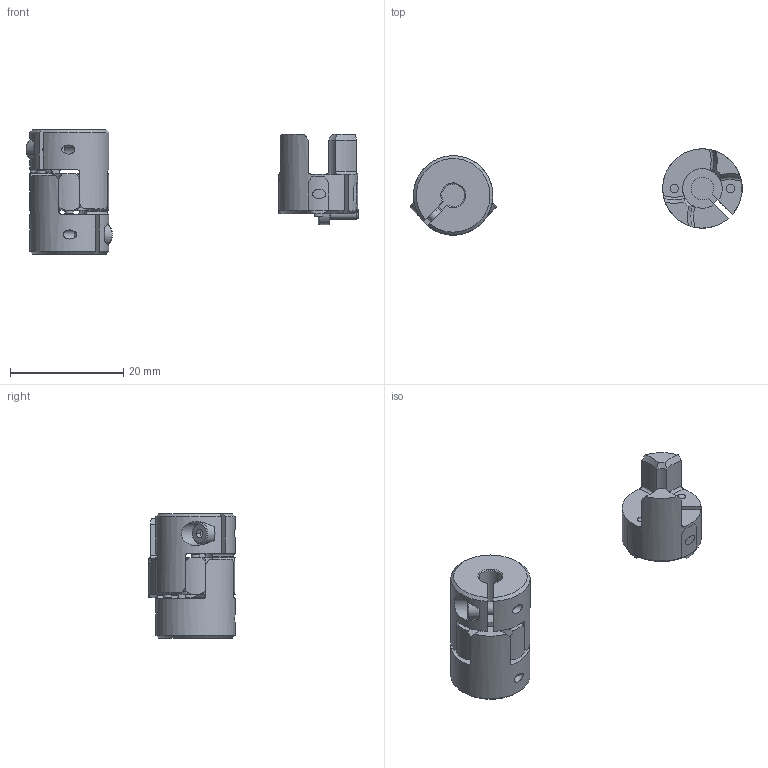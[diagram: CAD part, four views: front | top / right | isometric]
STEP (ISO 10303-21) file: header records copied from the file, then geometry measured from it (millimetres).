
FILE_DESCRIPTION( ( 'Unknown' ), '1' );
FILE_NAME( 'C:/Dokumente und Einstellungen/Sven/Desktop/homepage/cad - homepage/KBE2/KBE2-7.stp', 'Unknown', ( 'Unknown' ), ( 'Unknown' ), 'XStep 1.0', 'Unknown', ' ' );
FILE_SCHEMA( ( 'automotive_design' ) );
Length unit declared in the file: millimetre
Products named in the file (4): Assem1; KN7_Standard; ZK7_Standard; Socket Head Cap Screw_DIN_DIN 912 M2 x 5 --- 5N
Bounding box: 58.6 x 15.23 x 22 mm (x, y, z)
Volume: 4572.4 mm3; surface area: 4202.1 mm2
Topology: 8 solids, 8 shells, 243 faces, 607 edges, 394 vertices
Faces by surface type: plane 87, cylinder 76, cone 62, torus 18
Full cylindrical faces by diameter (mm): 1.5 x8, 1.6 x3, 2 x3, 2.2 x3, 3.8 x3
Entity records: 3266 total; most frequent: CARTESIAN_POINT 725, DIRECTION 477, ORIENTED_EDGE 444, EDGE_CURVE 222, AXIS2_PLACEMENT_3D 208, VERTEX_POINT 152, EDGE_LOOP 117, CIRCLE 107
